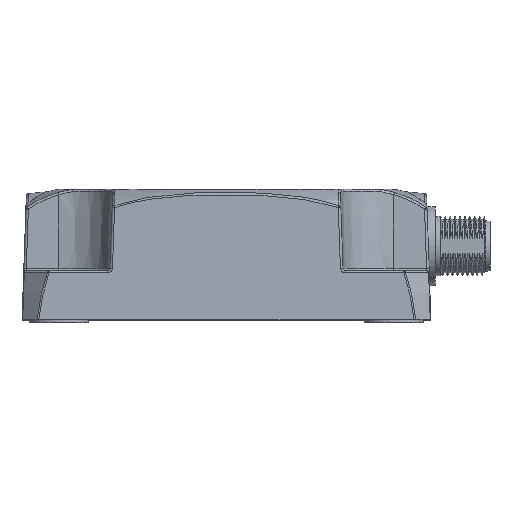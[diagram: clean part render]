
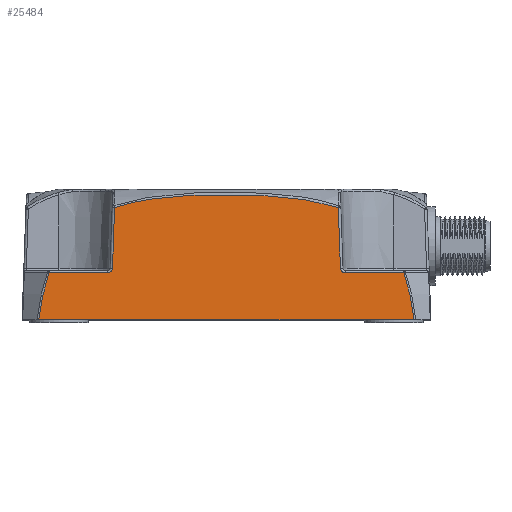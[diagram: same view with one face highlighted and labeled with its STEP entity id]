
A CAD part, top view. The second image highlights one B-rep face of the part: STEP entity #25484.
In plain terms, the highlighted planar face has unit normal (0, 0.035, 0.999).
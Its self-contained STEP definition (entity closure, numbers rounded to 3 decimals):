
#470 = LINE ( 'NONE', #42643, #19922 ) ;
#1216 = EDGE_LOOP ( 'NONE', ( #16900, #33677, #28408, #17843, #6905, #7305, #43817, #29455, #48070, #28650 ) ) ;
#1479 = CARTESIAN_POINT ( 'NONE',  ( -37.912, 2.118, 29.444 ) ) ;
#1514 = CARTESIAN_POINT ( 'NONE',  ( 36.554, 8.482, 29.221 ) ) ;
#1569 =( BOUNDED_CURVE ( )  B_SPLINE_CURVE ( 3, ( #41498, #34310, #30581, #25899 ),
 .UNSPECIFIED., .F., .T. ) 
 B_SPLINE_CURVE_WITH_KNOTS ( ( 4, 4 ),
 ( 1.606, 3.142 ),
 .UNSPECIFIED. ) 
 CURVE ( )  GEOMETRIC_REPRESENTATION_ITEM ( )  RATIONAL_B_SPLINE_CURVE ( ( 1., 0.813, 0.813, 1. ) ) 
 REPRESENTATION_ITEM ( '' )  );
#2005 = CARTESIAN_POINT ( 'NONE',  ( 36.979, 6.911, 29.276 ) ) ;
#2695 = DIRECTION ( 'NONE',  ( 1., 0., 0. ) ) ;
#3379 = DIRECTION ( 'NONE',  ( -0.035, -0.999, 0.035 ) ) ;
#4175 = CARTESIAN_POINT ( 'NONE',  ( -20.887, 23.897, 28.683 ) ) ;
#4898 = DIRECTION ( 'NONE',  ( -1., 0., 0. ) ) ;
#5031 = VERTEX_POINT ( 'NONE', #42838 ) ;
#5545 = VERTEX_POINT ( 'NONE', #20449 ) ;
#5946 = EDGE_CURVE ( 'NONE', #5545, #18561, #470, .T. ) ;
#6205 = CARTESIAN_POINT ( 'NONE',  ( -36.006, 10.017, 29.168 ) ) ;
#6905 = ORIENTED_EDGE ( 'NONE', *, *, #32940, .T. ) ;
#6934 = LINE ( 'NONE', #40920, #30961 ) ;
#7305 = ORIENTED_EDGE ( 'NONE', *, *, #18247, .F. ) ;
#7436 = CARTESIAN_POINT ( 'NONE',  ( -13.37, 25.268, 28.635 ) ) ;
#7840 = B_SPLINE_CURVE_WITH_KNOTS ( 'NONE', 3,
 ( #13519, #16494, #35267, #20186, #1479, #28554 ),
 .UNSPECIFIED., .F., .F.,
 ( 4, 2, 4 ),
 ( 0., 0.005, 0.01 ),
 .UNSPECIFIED. ) ;
#8141 = VECTOR ( 'NONE', #45469, 1000. ) ;
#8244 = LINE ( 'NONE', #18565, #8141 ) ;
#8700 = CARTESIAN_POINT ( 'NONE',  ( 37.659, 3.725, 29.387 ) ) ;
#9478 = EDGE_CURVE ( 'NONE', #18085, #46776, #24170, .T. ) ;
#10802 = LINE ( 'NONE', #26278, #35234 ) ;
#11246 = CARTESIAN_POINT ( 'NONE',  ( -22.705, 23.276, 28.705 ) ) ;
#11323 = CARTESIAN_POINT ( 'NONE',  ( 23.134, 10.983, 29.134 ) ) ;
#11820 = CARTESIAN_POINT ( 'NONE',  ( 20.884, 23.898, 28.683 ) ) ;
#11973 = CARTESIAN_POINT ( 'NONE',  ( -24.134, 10.017, 29.168 ) ) ;
#13519 = CARTESIAN_POINT ( 'NONE',  ( -36.006, 10.017, 29.168 ) ) ;
#14761 = CARTESIAN_POINT ( 'NONE',  ( -22.705, 23.276, 28.705 ) ) ;
#14997 = CARTESIAN_POINT ( 'NONE',  ( 1.912, 25.939, 28.612 ) ) ;
#15356 = EDGE_CURVE ( 'NONE', #5545, #33084, #25126, .T. ) ;
#16309 = EDGE_CURVE ( 'NONE', #18561, #5031, #7840, .T. ) ;
#16368 = LINE ( 'NONE', #46709, #19033 ) ;
#16494 = CARTESIAN_POINT ( 'NONE',  ( -36.554, 8.482, 29.221 ) ) ;
#16900 = ORIENTED_EDGE ( 'NONE', *, *, #5946, .T. ) ;
#17843 = ORIENTED_EDGE ( 'NONE', *, *, #9478, .T. ) ;
#18085 = VERTEX_POINT ( 'NONE', #48116 ) ;
#18190 = CARTESIAN_POINT ( 'NONE',  ( -19.03, 24.34, 28.667 ) ) ;
#18247 = EDGE_CURVE ( 'NONE', #35549, #48529, #1569, .T. ) ;
#18561 = VERTEX_POINT ( 'NONE', #6205 ) ;
#18565 = CARTESIAN_POINT ( 'NONE',  ( 23.421, 2.764, 29.421 ) ) ;
#18705 = CARTESIAN_POINT ( 'NONE',  ( 15.261, 25.028, 28.643 ) ) ;
#19033 = VECTOR ( 'NONE', #34904, 1000. ) ;
#19922 = VECTOR ( 'NONE', #4898, 1000. ) ;
#20186 = CARTESIAN_POINT ( 'NONE',  ( -37.659, 3.725, 29.387 ) ) ;
#20449 = CARTESIAN_POINT ( 'NONE',  ( -24.134, 10.017, 29.168 ) ) ;
#20454 = CARTESIAN_POINT ( 'NONE',  ( 36.006, 10.017, 29.168 ) ) ;
#21719 = DIRECTION ( 'NONE',  ( 1., 0., 0. ) ) ;
#22136 = CARTESIAN_POINT ( 'NONE',  ( 19.025, 24.342, 28.667 ) ) ;
#22522 = VERTEX_POINT ( 'NONE', #11246 ) ;
#22577 = VERTEX_POINT ( 'NONE', #38592 ) ;
#23057 = EDGE_CURVE ( 'NONE', #35549, #22577, #8244, .T. ) ;
#23508 = CARTESIAN_POINT ( 'NONE',  ( -23.154, 10.413, 29.154 ) ) ;
#24170 = B_SPLINE_CURVE_WITH_KNOTS ( 'NONE', 3,
 ( #46161, #42719, #8700, #2005, #1514, #20454 ),
 .UNSPECIFIED., .F., .F.,
 ( 4, 2, 4 ),
 ( 0., 0.005, 0.01 ),
 .UNSPECIFIED. ) ;
#25126 =( BOUNDED_CURVE ( )  B_SPLINE_CURVE ( 3, ( #11973, #30922, #23508, #42092 ),
 .UNSPECIFIED., .F., .T. ) 
 B_SPLINE_CURVE_WITH_KNOTS ( ( 4, 4 ),
 ( 3.142, 4.677 ),
 .UNSPECIFIED. ) 
 CURVE ( )  GEOMETRIC_REPRESENTATION_ITEM ( )  RATIONAL_B_SPLINE_CURVE ( ( 1., 0.813, 0.813, 1. ) ) 
 REPRESENTATION_ITEM ( '' )  );
#25363 = EDGE_CURVE ( 'NONE', #22522, #33084, #10802, .T. ) ;
#25484 = ADVANCED_FACE ( 'NONE', ( #43749 ), #28646, .T. ) ;
#25899 = CARTESIAN_POINT ( 'NONE',  ( 24.134, 10.017, 29.168 ) ) ;
#26278 = CARTESIAN_POINT ( 'NONE',  ( -23.522, -0.127, 29.522 ) ) ;
#26585 = CARTESIAN_POINT ( 'NONE',  ( 13.354, 25.27, 28.635 ) ) ;
#28408 = ORIENTED_EDGE ( 'NONE', *, *, #36766, .T. ) ;
#28554 = CARTESIAN_POINT ( 'NONE',  ( -38.103, 0.5, 29.5 ) ) ;
#28646 = PLANE ( 'NONE',  #36833 ) ;
#28650 = ORIENTED_EDGE ( 'NONE', *, *, #15356, .F. ) ;
#28885 = DIRECTION ( 'NONE',  ( 0., 0.035, 0.999 ) ) ;
#29455 = ORIENTED_EDGE ( 'NONE', *, *, #44269, .T. ) ;
#30032 = CARTESIAN_POINT ( 'NONE',  ( -9.558, 25.628, 28.623 ) ) ;
#30283 = CARTESIAN_POINT ( 'NONE',  ( 3.821, 25.903, 28.613 ) ) ;
#30581 = CARTESIAN_POINT ( 'NONE',  ( 23.564, 10.017, 29.168 ) ) ;
#30922 = CARTESIAN_POINT ( 'NONE',  ( -23.564, 10.017, 29.168 ) ) ;
#30961 = VECTOR ( 'NONE', #2695, 1000. ) ;
#32833 = CARTESIAN_POINT ( 'NONE',  ( 24.134, 10.017, 29.168 ) ) ;
#32940 = EDGE_CURVE ( 'NONE', #46776, #48529, #16368, .T. ) ;
#33084 = VERTEX_POINT ( 'NONE', #44004 ) ;
#33677 = ORIENTED_EDGE ( 'NONE', *, *, #16309, .T. ) ;
#33756 = CARTESIAN_POINT ( 'NONE',  ( 9.544, 25.629, 28.622 ) ) ;
#34310 = CARTESIAN_POINT ( 'NONE',  ( 23.154, 10.413, 29.154 ) ) ;
#34904 = DIRECTION ( 'NONE',  ( -1., 0., 0. ) ) ;
#35234 = VECTOR ( 'NONE', #3379, 1000. ) ;
#35267 = CARTESIAN_POINT ( 'NONE',  ( -36.979, 6.911, 29.276 ) ) ;
#35549 = VERTEX_POINT ( 'NONE', #11323 ) ;
#36766 = EDGE_CURVE ( 'NONE', #5031, #18085, #6934, .T. ) ;
#36833 = AXIS2_PLACEMENT_3D ( 'NONE', #48625, #28885, #21719 ) ;
#36991 = CARTESIAN_POINT ( 'NONE',  ( -7.647, 25.747, 28.618 ) ) ;
#37236 = CARTESIAN_POINT ( 'NONE',  ( -15.273, 25.027, 28.644 ) ) ;
#37733 = CARTESIAN_POINT ( 'NONE',  ( -3.821, 25.903, 28.613 ) ) ;
#38592 = CARTESIAN_POINT ( 'NONE',  ( 22.705, 23.276, 28.705 ) ) ;
#40920 = CARTESIAN_POINT ( 'NONE',  ( -41.5, 0.5, 29.5 ) ) ;
#41180 = CARTESIAN_POINT ( 'NONE',  ( 7.637, 25.747, 28.618 ) ) ;
#41498 = CARTESIAN_POINT ( 'NONE',  ( 23.134, 10.983, 29.134 ) ) ;
#42092 = CARTESIAN_POINT ( 'NONE',  ( -23.134, 10.983, 29.134 ) ) ;
#42643 = CARTESIAN_POINT ( 'NONE',  ( -41.5, 10.017, 29.168 ) ) ;
#42719 = CARTESIAN_POINT ( 'NONE',  ( 37.912, 2.118, 29.444 ) ) ;
#42838 = CARTESIAN_POINT ( 'NONE',  ( -38.103, 0.5, 29.5 ) ) ;
#42854 = CARTESIAN_POINT ( 'NONE',  ( 36.006, 10.017, 29.168 ) ) ;
#43749 = FACE_OUTER_BOUND ( 'NONE', #1216, .T. ) ;
#43817 = ORIENTED_EDGE ( 'NONE', *, *, #23057, .T. ) ;
#44004 = CARTESIAN_POINT ( 'NONE',  ( -23.134, 10.983, 29.134 ) ) ;
#44269 = EDGE_CURVE ( 'NONE', #22577, #22522, #46958, .T. ) ;
#44885 = CARTESIAN_POINT ( 'NONE',  ( 22.705, 23.276, 28.705 ) ) ;
#45469 = DIRECTION ( 'NONE',  ( -0.035, 0.999, -0.035 ) ) ;
#45606 = CARTESIAN_POINT ( 'NONE',  ( -1.909, 25.939, 28.612 ) ) ;
#46161 = CARTESIAN_POINT ( 'NONE',  ( 38.103, 0.5, 29.5 ) ) ;
#46709 = CARTESIAN_POINT ( 'NONE',  ( 23.651, 10.017, 29.168 ) ) ;
#46776 = VERTEX_POINT ( 'NONE', #42854 ) ;
#46958 = B_SPLINE_CURVE_WITH_KNOTS ( 'NONE', 3,
 ( #44885, #11820, #22136, #18705, #26585, #33756, #41180, #30283, #14997, #45606, #37733, #36991, #30032, #7436, #37236, #18190, #4175, #14761 ),
 .UNSPECIFIED., .F., .F.,
 ( 4, 2, 2, 2, 2, 2, 2, 2, 4 ),
 ( 0., 0.006, 0.011, 0.017, 0.023, 0.029, 0.034, 0.04, 0.046 ),
 .UNSPECIFIED. ) ;
#48070 = ORIENTED_EDGE ( 'NONE', *, *, #25363, .T. ) ;
#48116 = CARTESIAN_POINT ( 'NONE',  ( 38.103, 0.5, 29.5 ) ) ;
#48529 = VERTEX_POINT ( 'NONE', #32833 ) ;
#48625 = CARTESIAN_POINT ( 'NONE',  ( -41.5, 0.5, 29.5 ) ) ;
